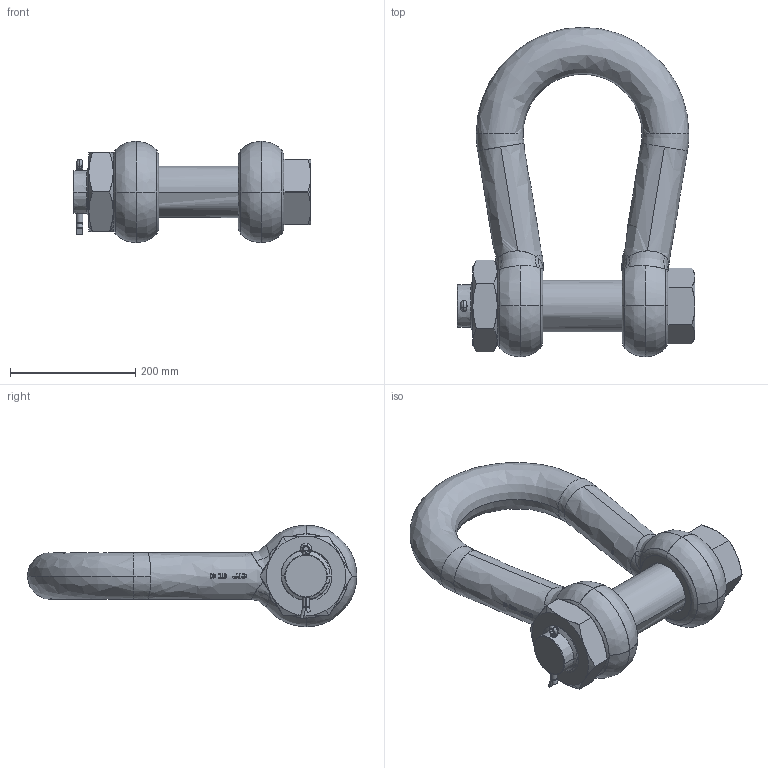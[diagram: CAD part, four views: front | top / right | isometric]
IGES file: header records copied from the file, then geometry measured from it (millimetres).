
Start section: START RECORD GO HERE.
Global section: file name: 85.igs; native system: Solidworks 2009            ion 5 Release 17 ; preprocessor: CATIA Version 5 Release 17 ; author: v.b.; organization: P4; date: 20090807.082656; units: millimetre
Bounding box: 380 x 526.5 x 162 mm (x, y, z)
Surface area: 517666.6 mm2 (no closed solid volume)
Topology: 0 solids, 0 shells, 786 faces, 5880 edges, 5880 vertices
Faces by surface type: bspline 375, plane 241, revolution 170
